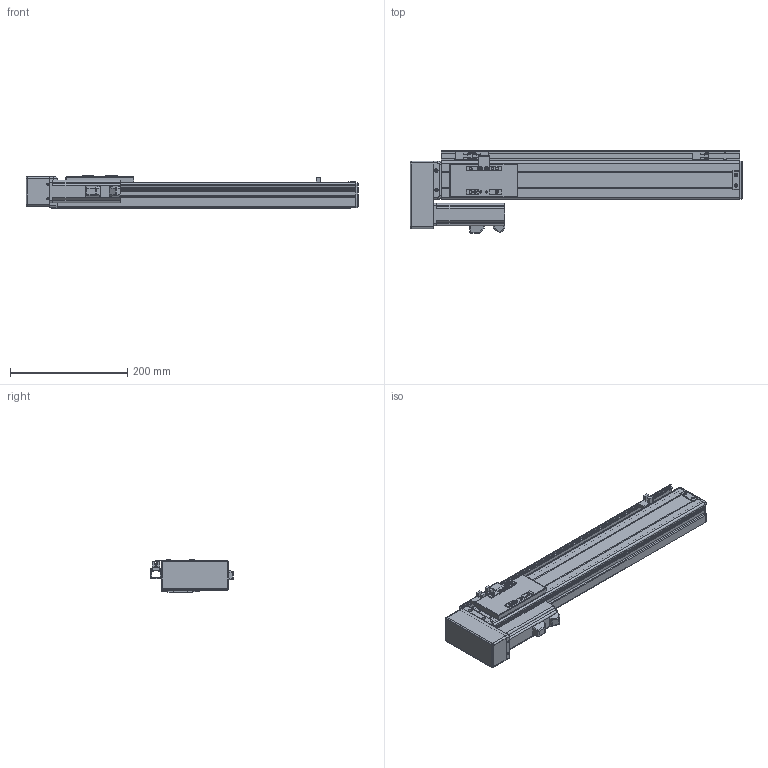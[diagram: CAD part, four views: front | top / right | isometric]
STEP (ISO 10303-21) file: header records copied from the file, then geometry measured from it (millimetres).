
FILE_DESCRIPTION (( 'STEP AP203' ), '1' );
FILE_NAME ('VT6-S360-BL.STEP', '2016-06-17T09:48:47', ( '' ), ( '' ), 'SwSTEP 2.0', 'SolidWorks 2013', '' );
FILE_SCHEMA (( 'CONFIG_CONTROL_DESIGN' ));
Length unit declared in the file: millimetre
Products named in the file (17): EE-XS674; VT6-S360-BL; ET6-BLRM絳寢_俴最360; ET6-BC耜啣_360; ET6-BLRM滅鳥湍_360; ET6-BC癹弇羲壽羞_360; ET6-BLRM佪裝_360; T6-賑雄殤; T6-BMLRヶ傷裔; T6-裔啣; T6-BMRLヶ傷裔揤啣; T6-揤輸; T6-BMRL肮祭湍謫欶; T6-覜茼え; T6-BRL萇儂假蚾啣; T6-綴傷裔; 侂狟100W MSMD012G1V
Assembly tree (19 placements, depth 2):
  VT6-S360-BL
    ET6-BC耜啣_360  x2
    ET6-BC癹弇羲壽羞_360
    T6-賑雄殤
    T6-裔啣
    T6-揤輸
    T6-覜茼え
    T6-綴傷裔
    EE-XS674  x3
    ET6-BLRM絳寢_俴最360
    ET6-BLRM滅鳥湍_360
    ET6-BLRM佪裝_360
    T6-BMLRヶ傷裔
    T6-BMRLヶ傷裔揤啣
    T6-BMRL肮祭湍謫欶
    T6-BRL萇儂假蚾啣
    侂狟100W MSMD012G1V
Bounding box: 567 x 141 x 56 mm (x, y, z)
Volume: 783464.7 mm3; surface area: 460190 mm2
Topology: 19 solids, 19 shells, 893 faces, 2364 edges, 1496 vertices
Faces by surface type: cylinder 419, plane 374, cone 46, torus 36, sphere 18
Entity records: 27545 total; most frequent: CARTESIAN_POINT 4633, DIRECTION 4602, ORIENTED_EDGE 4246, EDGE_CURVE 2123, AXIS2_PLACEMENT_3D 1685, VERTEX_POINT 1356, VECTOR 1232, LINE 1232
